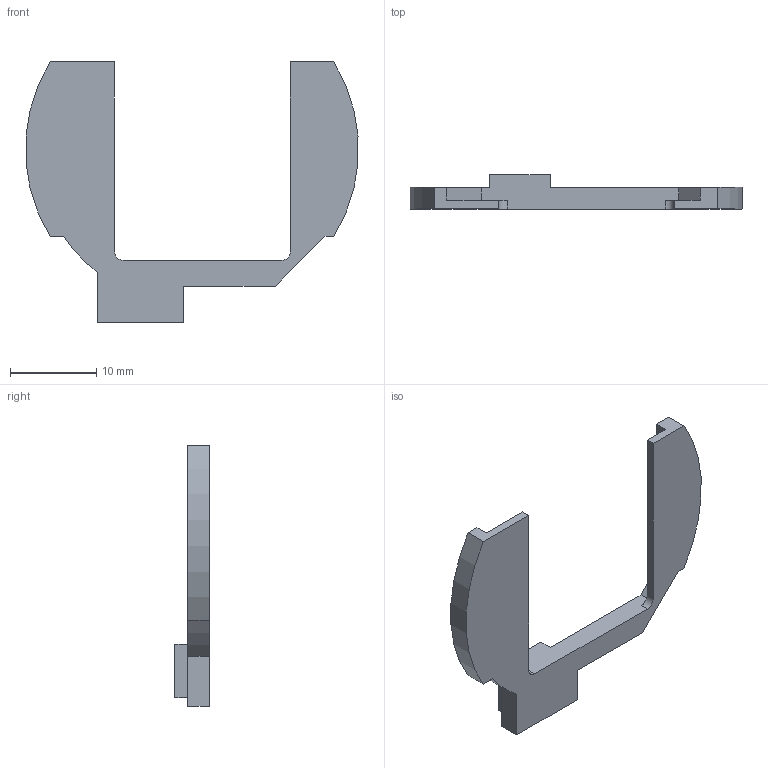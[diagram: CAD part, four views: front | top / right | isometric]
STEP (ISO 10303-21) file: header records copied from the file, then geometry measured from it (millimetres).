
FILE_DESCRIPTION (( 'STEP AP214' ), '1' );
FILE_NAME ('Part3^Clock prototype.STEP', '2026-05-30T08:15:49', ( '' ), ( '' ), 'SwSTEP 2.0', 'SolidWorks 2026', '' );
FILE_SCHEMA (( 'AUTOMOTIVE_DESIGN' ));
Length unit declared in the file: millimetre
Products named in the file (1): Part3^Clock prototype
Bounding box: 38.5 x 4 x 30.18 mm (x, y, z)
Volume: 930.1 mm3; surface area: 1377.4 mm2
Topology: 1 solids, 1 shells, 29 faces, 81 edges, 54 vertices
Faces by surface type: plane 24, cylinder 5
Entity records: 948 total; most frequent: CARTESIAN_POINT 165, ORIENTED_EDGE 162, DIRECTION 151, EDGE_CURVE 81, VECTOR 71, LINE 71, VERTEX_POINT 54, AXIS2_PLACEMENT_3D 40
